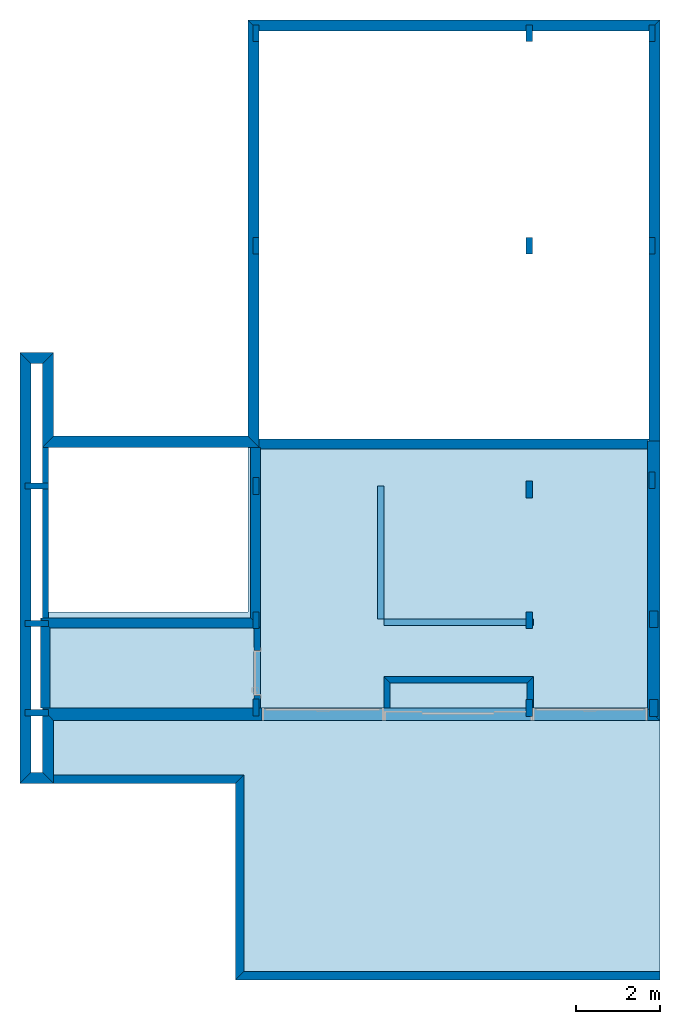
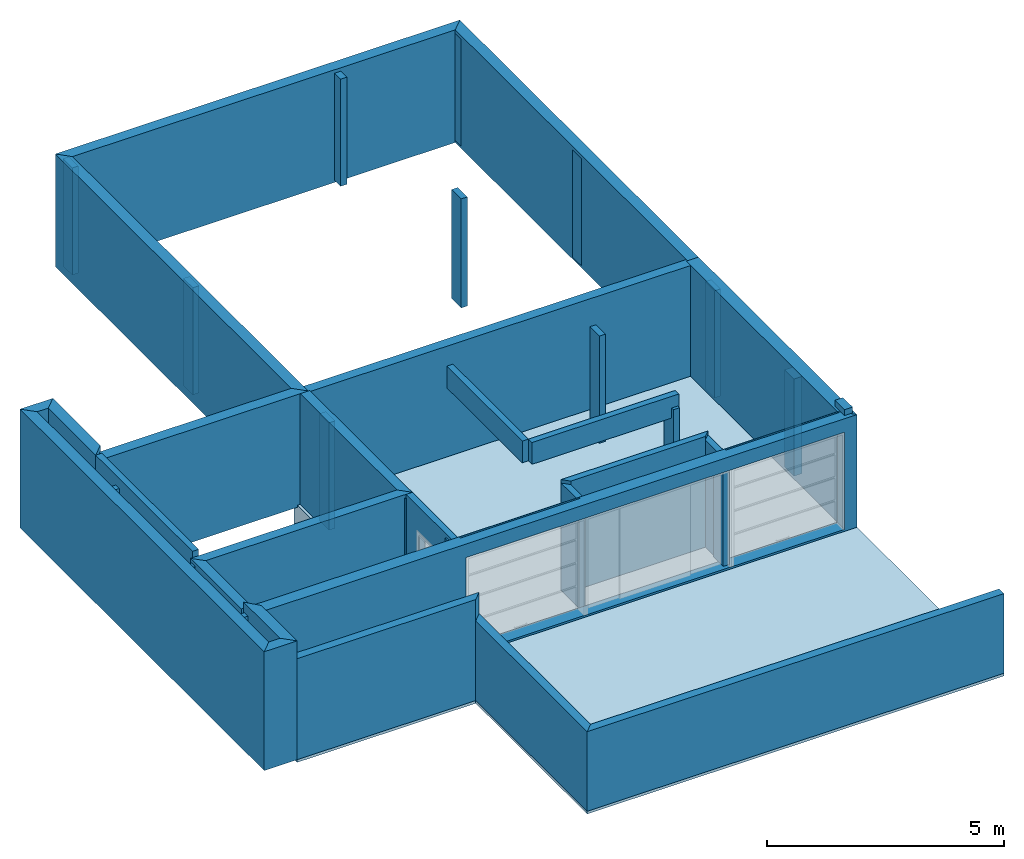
# One storey, part 1 of 2: 25 walls, 18 columns, 2 slabs, 4 openings.
"""IFC2X3 building model written with IfcOpenShell, lengths in millimetres."""

from ifc_helpers import new_model, entity, si_unit, converted_unit, money_unit, direction, frame, origin_with_axes, origin_2d_with_axis, place, context, subcontext, project, spatial, polyline, rectangle, outline, extrude, material, layer, layer_set, layer_usage, type_object, element, save


model = new_model("IFC2X3")

# Units and contexts
model_context = context("Model", 3, precision=1e-05, world=origin_with_axes(), true_north=direction((0.0, 1.0)))
body_context = subcontext(model_context, "Body", "Model", "MODEL_VIEW")
ifc_project = project(units=[si_unit("LENGTHUNIT", "METRE", prefix="MILLI"), si_unit("AREAUNIT", "SQUARE_METRE"), si_unit("VOLUMEUNIT", "CUBIC_METRE"), converted_unit("PLANEANGLEUNIT", "DEGREE", entity("IfcPlaneAngleMeasure", 0.0174532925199), si_unit("PLANEANGLEUNIT", "RADIAN"), dimensions=[0, 0, 0, 0, 0, 0, 0]), si_unit("SOLIDANGLEUNIT", "STERADIAN"), money_unit("USD"), converted_unit("TIMEUNIT", "Year", entity("IfcTimeMeasure", 31556926.0), si_unit("TIMEUNIT", "SECOND"), dimensions=[0, 0, 0, 0, 0, 0, 0]), si_unit("MASSUNIT", "GRAM"), si_unit("THERMODYNAMICTEMPERATUREUNIT", "DEGREE_CELSIUS"), si_unit("LUMINOUSINTENSITYUNIT", "LUMEN")], contexts=[model_context])

# Site, building, storey
site_placement = place(None, origin_with_axes())
site = spatial("IfcSite", under=ifc_project, at=site_placement, Name="Grove Residential", CompositionType="ELEMENT")
building_placement = place(site_placement, origin_with_axes())
building = spatial("IfcBuilding", under=site, at=building_placement, Name="Building", CompositionType="ELEMENT")
storey_placement = place(building_placement, frame((0.0, 0.0, -3060.0), z_axis=(0.0, 0.0, 1.0), x_axis=(1.0, 0.0, 0.0)))
storey = spatial("IfcBuildingStorey", under=building, at=storey_placement, Name="Basement", CompositionType="ELEMENT", Elevation=-3060.0)

# Columns
ifc_material_1 = material(Name="Concrete - Structural")
column_type_1 = type_object("IfcColumnType", Name="Concrete - Structural 150 x 400", PredefinedType="NOTDEFINED")
for number, where, z_axis, x_axis, name in (
    (1, (640.000123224, 3749.99996722, 0.0), (0.0, 0.0, 1.0), (1.0, 0.0, 0.0), "CRE - 001"),
    (2, (639.999984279, 12700.0, 0.0), (0.0, 0.0, 1.0), (1.0, 0.0, 0.0), "CRE - 001"),
    (3, (10109.9999055, 12700.0, 0.0), (0.0, 0.0, 1.0), (1.0, 0.0, 0.0), "CRE - 001"),
    (4, (639.999984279, 17785.0, 0.0), (0.0, 0.0, 1.0), (1.0, 0.0, 0.0), "CRE - 001"),
    (5, (10109.9999055, 17785.0, 0.0), (0.0, 0.0, 1.0), (1.0, 0.0, 0.0), "CRE - 001"),
    (6, (7175.0, 3749.99996722, 0.0), (0.0, 0.0, 1.0), (1.0, 0.0, 0.0), "CRE - 001"),
    (7, (640.000123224, 1664.99992309, 0.0), (0.0, 0.0, 1.0), (1.0, 0.0, 0.0), "CRE - 001"),
    (8, (639.99999327, 6960.0, 0.0), (0.0, 0.0, 1.0), (1.0, 0.0, 0.0), "CRE - 001"),
    (9, (10109.9999055, 7100.0, 0.0), (0.0, 0.0, 1.0), (1.0, 0.0, 0.0), "CRE - 001"),
    (10, (7175.0, 6875.0, 0.0), (0.0, 0.0, 1.0), (1.0, 0.0, 0.0), "CRE - 001"),
):
    element("IfcColumn", number, at=place(storey_placement, frame(where, z_axis=z_axis, x_axis=x_axis)), inside=storey, type_object=column_type_1, material=ifc_material_1, Name=name, ObjectType="Concrete - Structural 150 x 400", context=body_context, shape_type="SweptSolid", body=[
        extrude(rectangle(XDim=150.0, YDim=400.0, at=origin_2d_with_axis()), origin_with_axes(), (0.0, 0.0, 1.0), 2760.0),
    ])
column_1_placement = place(storey_placement, frame((7175.0, 12700.0, -50.0), z_axis=(0.0, 0.0, 1.0), x_axis=(1.0, 0.0, 0.0)))
element("IfcColumn", 11, at=column_1_placement, inside=storey, type_object=column_type_1, material=ifc_material_1, Name="CRE - 001", ObjectType="Concrete - Structural 150 x 400", context=body_context, shape_type="SweptSolid", body=[
    extrude(rectangle(XDim=150.0, YDim=400.0, at=origin_2d_with_axis()), origin_with_axes(), (0.0, 0.0, 1.0), 2810.0),
])
column_2_placement = place(storey_placement, frame((7175.0, 17785.0, 0.0), z_axis=(0.0, 0.0, 1.0), x_axis=(1.0, 0.0, 0.0)))
element("IfcColumn", 12, at=column_2_placement, inside=storey, type_object=column_type_1, material=ifc_material_1, Name="CRE - 001", ObjectType="Concrete - Structural 150 x 400", context=body_context, shape_type="SweptSolid", body=[
    extrude(rectangle(XDim=150.0, YDim=400.0, at=origin_2d_with_axis()), origin_with_axes(), (0.0, 0.0, 1.0), 2760.0),
])
column_3_placement = place(storey_placement, frame((7175.0, 1650.0, 0.0), z_axis=(0.0, 0.0, 1.0), x_axis=(1.0, 0.0, 0.0)))
element("IfcColumn", 13, at=column_3_placement, inside=storey, type_object=column_type_1, material=ifc_material_1, Name="CRE - 001", ObjectType="Concrete - Structural 150 x 400", context=body_context, shape_type="SweptSolid", body=[
    extrude(rectangle(XDim=150.0, YDim=400.0, at=origin_2d_with_axis()), origin_with_axes(), (0.0, 0.0, 1.0), 2500.0),
])
column_type_2 = type_object("IfcColumnType", Name="Concrete - Structural 200 x 400", PredefinedType="NOTDEFINED")
column_4_placement = place(storey_placement, frame((10150.0, 3774.99996722, 0.0), z_axis=(0.0, 0.0, 1.0), x_axis=(1.0, 0.0, 0.0)))
element("IfcColumn", 14, at=column_4_placement, inside=storey, type_object=column_type_2, material=ifc_material_1, Name="CRE - 001", ObjectType="Concrete - Structural 200 x 400", context=body_context, shape_type="SweptSolid", body=[
    extrude(rectangle(XDim=200.0, YDim=400.0, at=origin_2d_with_axis()), origin_with_axes(), (0.0, 0.0, 1.0), 2500.0),
])
column_5_placement = place(storey_placement, frame((10150.0, 1650.0, 0.0), z_axis=(0.0, 0.0, 1.0), x_axis=(1.0, 0.0, 0.0)))
element("IfcColumn", 15, at=column_5_placement, inside=storey, type_object=column_type_2, material=ifc_material_1, Name="CRE - 001", ObjectType="Concrete - Structural 200 x 400", context=body_context, shape_type="SweptSolid", body=[
    extrude(rectangle(XDim=200.0, YDim=400.0, at=origin_2d_with_axis()), origin_with_axes(), (0.0, 0.0, 1.0), 3000.0),
])
column_type_3 = type_object("IfcColumnType", Name="Concrete - Structural 570 x 150", PredefinedType="NOTDEFINED")
for number, where, z_axis, x_axis, name in (
    (16, (-4600.0, 6960.0, 0.0), (0.0, 0.0, 1.0), (1.0, 0.0, 0.0), "CRE - 001"),
    (17, (-4600.0, 1539.99992309, 0.0), (0.0, 0.0, 1.0), (1.0, 0.0, 0.0), "CRE - 001"),
    (18, (-4600.0, 3674.99996722, 0.0), (0.0, 0.0, 1.0), (1.0, 0.0, 0.0), "CRE - 001"),
):
    element("IfcColumn", number, at=place(storey_placement, frame(where, z_axis=z_axis, x_axis=x_axis)), inside=storey, type_object=column_type_3, material=ifc_material_1, Name=name, ObjectType="Concrete - Structural 570 x 150", context=body_context, shape_type="SweptSolid", body=[
        extrude(rectangle(XDim=570.0, YDim=150.0, at=origin_2d_with_axis()), origin_with_axes(), (0.0, 0.0, 1.0), 2760.0),
    ])

# Slabs
ifc_material_2 = material(Name="Grass Paver")
ifc_layer_1 = layer(ifc_material_2, 70.0, ventilated="UNKNOWN")
ifc_layer_set_1 = layer_set([ifc_layer_1], Name="Grass Paver 70")
ifc_layer_usage_1 = layer_usage(ifc_layer_set_1, "AXIS3", "NEGATIVE", 70.0)
slab_type_1 = type_object("IfcSlabType", Name="Grass Paver 70", PredefinedType="FLOOR")
slab_1_placement = place(storey_placement, frame((150.0, -4850.0, -50.0), z_axis=(0.0, 0.0, 1.0), x_axis=(1.0, 0.0, 0.0)))
element("IfcSlab", 19, at=slab_1_placement, inside=storey, type_object=slab_type_1, material=ifc_layer_usage_1, Name="SLA - 001", PredefinedType="FLOOR", context=body_context, shape_type="SweptSolid", body=[
    extrude(outline(polyline([(0.0, 0.0), (10150.0, 0.0), (10150.0, 6200.0), (-4350.0, 6200.0), (-4350.0, 4700.0), (0.0, 4700.0), (0.0, 0.0)])), frame((0.0, 0.0, -70.0), z_axis=(0.0, 0.0, 1.0), x_axis=(1.0, 0.0, 0.0)), (0.0, 0.0, 1.0), 70.0),
])
ifc_material_3 = material(Name="Polished Concrete")
ifc_layer_2 = layer(ifc_material_3, 10.0, ventilated="UNKNOWN")
ifc_material_4 = material(Name="Screed")
ifc_layer_3 = layer(ifc_material_4, 40.0, ventilated="UNKNOWN")
ifc_layer_4 = layer(ifc_material_1, 150.0, ventilated="UNKNOWN")
ifc_material_5 = material(Name="Gravel")
ifc_layer_5 = layer(ifc_material_5, 500.0, ventilated="UNKNOWN")
ifc_layer_set_2 = layer_set([ifc_layer_2, ifc_layer_3, ifc_layer_4, ifc_layer_5], Name="IFS - 001")
ifc_layer_usage_2 = layer_usage(ifc_layer_set_2, "AXIS3", "NEGATIVE", 700.0)
slab_type_2 = type_object("IfcSlabType", Name="IFS - 001 700", PredefinedType="FLOOR")
slab_2_placement = place(storey_placement, frame((10185.0, 1350.0, 0.0), z_axis=(0.0, 0.0, 1.0), x_axis=(1.0, 0.0, 0.0)))
element("IfcSlab", 20, at=slab_2_placement, inside=storey, type_object=slab_type_2, material=ifc_layer_usage_2, Name="SLA - 001", PredefinedType="FLOOR", context=body_context, shape_type="SweptSolid", body=[
    extrude(outline(polyline([(0.0, 0.0), (0.0, 6685.0), (-9735.0, 6685.0), (-9735.0, 2600.0), (-14650.0, 2600.0), (-14650.0, 0.0), (0.0, 0.0)])), frame((0.0, 0.0, -700.0), z_axis=(0.0, 0.0, 1.0), x_axis=(1.0, 0.0, 0.0)), (0.0, 0.0, 1.0), 700.0),
])

# Walls
ifc_material_6 = material(Name="Stonework wall")
ifc_layer_6 = layer(ifc_material_6, 200.0, ventilated="UNKNOWN")
ifc_layer_set_3 = layer_set([ifc_layer_6], Name="Stonework wall 200")
ifc_layer_usage_3 = layer_usage(ifc_layer_set_3, "AXIS2", "POSITIVE", -200.0)
wall_type_1 = type_object("IfcWallType", Name="Stonework wall 200", PredefinedType="NOTDEFINED")
wall_1_placement = place(storey_placement, frame((350.0, 50.0, -50.0), z_axis=(0.0, 0.0, 1.0), x_axis=(0.0, -1.0, 0.0)))
element("IfcWallStandardCase", 21, at=wall_1_placement, inside=storey, type_object=wall_type_1, material=ifc_layer_usage_3, Name="SW - 001", context=body_context, shape_type="SweptSolid", body=[
    extrude(outline(polyline([(200.0, -200.0), (4900.0, -200.0), (4700.0, 0.0), (0.0, 0.0), (200.0, -200.0)])), origin_with_axes(), (0.0, 0.0, 1.0), 2050.0),
])
ifc_layer_usage_4 = layer_usage(ifc_layer_set_3, "AXIS2", "NEGATIVE", 200.0)
wall_2_placement = place(storey_placement, frame((350.0, 50.0, -50.0), z_axis=(0.0, 0.0, 1.0), x_axis=(-1.0, 0.0, 0.0)))
element("IfcWallStandardCase", 22, at=wall_2_placement, inside=storey, type_object=wall_type_1, material=ifc_layer_usage_4, Name="SW - 001", context=body_context, shape_type="SweptSolid", body=[
    extrude(outline(polyline([(0.0, 0.0), (4550.0, 0.0), (4550.0, 200.0), (200.0, 200.0), (0.0, 0.0)])), origin_with_axes(), (0.0, 0.0, 1.0), 2600.0),
])
ifc_layer_usage_5 = layer_usage(ifc_layer_set_3, "AXIS2", "POSITIVE", -200.0)
wall_3_placement = place(storey_placement, frame((350.0, -4650.0, -50.0), z_axis=(0.0, 0.0, 1.0), x_axis=(1.0, 0.0, 0.0)))
element("IfcWallStandardCase", 23, at=wall_3_placement, inside=storey, type_object=wall_type_1, material=ifc_layer_usage_5, Name="SW - 002", context=body_context, shape_type="SweptSolid", body=[
    extrude(outline(polyline([(-200.0, -200.0), (9950.0, -200.0), (9950.0, 0.0), (0.0, 0.0), (-200.0, -200.0)])), origin_with_axes(), (0.0, 0.0, 1.0), 2050.0),
])

# Wall, openings
ifc_layer_7 = layer(ifc_material_6, 50.0, ventilated="UNKNOWN")
ifc_material_7 = material(Name="Air Space")
ifc_layer_8 = layer(ifc_material_7, 15.0, ventilated="UNKNOWN")
ifc_material_8 = material(Name="Insulation - Plastic Soft")
ifc_layer_9 = layer(ifc_material_8, 50.0, ventilated="UNKNOWN")
ifc_material_9 = material(Name="Concrete Block")
ifc_layer_10 = layer(ifc_material_9, 150.0, ventilated="UNKNOWN")
ifc_material_10 = material(Name="Air Space - Fixing Zone")
ifc_layer_11 = layer(ifc_material_10, 10.0, ventilated="UNKNOWN")
ifc_material_11 = material(Name="Gypsum Plasterboard")
ifc_layer_12 = layer(ifc_material_11, 12.5, ventilated="UNKNOWN")
ifc_layer_13 = layer(ifc_material_11, 12.5, ventilated="UNKNOWN")
ifc_layer_set_4 = layer_set([ifc_layer_7, ifc_layer_8, ifc_layer_9, ifc_layer_10, ifc_layer_11, ifc_layer_12, ifc_layer_13], Name="EWF - 009")
ifc_layer_usage_6 = layer_usage(ifc_layer_set_4, "AXIS2", "NEGATIVE", 115.0)
wall_type_2 = type_object("IfcWallType", Name="EWF - 009 300", PredefinedType="NOTDEFINED")
wall_4_placement = place(storey_placement, frame((10185.0, 1465.0, -50.0), z_axis=(0.0, 0.0, 1.0), x_axis=(-1.0, 0.0, 0.0)))
wall_4 = element("IfcWallStandardCase", 24, at=wall_4_placement, inside=storey, type_object=wall_type_2, material=ifc_layer_usage_6, Name="SW - 001", context=body_context, shape_type="SweptSolid", body=[
    extrude(outline(polyline([(185.0, -185.0), (14650.0, -185.0), (14385.0, 115.0), (-115.0, 115.0), (185.0, -185.0)])), origin_with_axes(), (0.0, 0.0, 1.0), 2900.0),
])
opening_1_placement = place(wall_4_placement, frame((1560.0, 0.0, 50.0), z_axis=(0.0, 0.0, 1.0), x_axis=(1.0, 0.0, 0.0)))
element("IfcOpeningElement", 25, at=opening_1_placement, cuts=wall_4, Name="D.07", context=body_context, shape_type="SweptSolid", body=[
    extrude(rectangle(XDim=2750.0, YDim=2500.0, at=origin_2d_with_axis()), frame((0.0, -300.0, 1250.0), z_axis=(0.0, 1.0, 0.0), x_axis=(-1.0, 0.0, 0.0)), (0.0, 0.0, 1.0), 900.0),
    extrude(outline(polyline([(-1375.0, 5000.0), (-1375.0, 2500.0), (1375.0, 2500.0), (1375.0, 5000.0), (-1375.0, 5000.0)])), frame((0.0, -180.0, 0.0), z_axis=(0.0, 1.0, 0.0), x_axis=(-1.0, 0.0, 0.0)), (0.0, 0.0, 1.0), 45.0),
])
opening_2_placement = place(wall_4_placement, frame((7942.5, 0.0, 50.0), z_axis=(0.0, 0.0, 1.0), x_axis=(1.0, 0.0, 0.0)))
element("IfcOpeningElement", 26, at=opening_2_placement, cuts=wall_4, Name="D.08", context=body_context, shape_type="SweptSolid", body=[
    extrude(rectangle(XDim=2915.0, YDim=2500.0, at=origin_2d_with_axis()), frame((0.0, -300.0, 1250.0), z_axis=(0.0, 1.0, 0.0), x_axis=(-1.0, 0.0, 0.0)), (0.0, 0.0, 1.0), 900.0),
    extrude(outline(polyline([(-1457.5, 5000.0), (-1457.5, 2500.0), (1457.5, 2500.0), (1457.5, 5000.0), (-1457.5, 5000.0)])), frame((0.0, -180.0, 0.0), z_axis=(0.0, 1.0, 0.0), x_axis=(-1.0, 0.0, 0.0)), (0.0, 0.0, 1.0), 45.0),
])
opening_3_placement = place(wall_4_placement, frame((4710.0, 0.0, 50.0), z_axis=(0.0, 0.0, 1.0), x_axis=(1.0, 0.0, 0.0)))
element("IfcOpeningElement", 27, at=opening_3_placement, cuts=wall_4, Name="D.10", context=body_context, shape_type="SweptSolid", body=[
    extrude(rectangle(XDim=3550.0, YDim=2500.0, at=origin_2d_with_axis()), frame((0.0, -300.0, 1250.0), z_axis=(0.0, 1.0, 0.0), x_axis=(-1.0, 0.0, 0.0)), (0.0, 0.0, 1.0), 900.0),
])

# Wall
ifc_layer_usage_7 = layer_usage(ifc_layer_set_4, "AXIS2", "NEGATIVE", 115.0)
wall_5_placement = place(storey_placement, frame((10185.0, 8035.0, -50.0), z_axis=(0.0, 0.0, 1.0), x_axis=(0.0, -1.0, 0.0)))
element("IfcWallStandardCase", 28, at=wall_5_placement, inside=storey, type_object=wall_type_2, material=ifc_layer_usage_7, Name="SW - 004", context=body_context, shape_type="SweptSolid", body=[
    extrude(outline(polyline([(0.0, -185.0), (6385.0, -185.0), (6685.0, 115.0), (0.0, 115.0), (0.0, -185.0)])), origin_with_axes(), (0.0, 0.0, 1.0), 2900.0),
])

# Wall, opening
ifc_material_12 = material(Name="Wall Tiles")
ifc_layer_14 = layer(ifc_material_12, 12.5, ventilated="UNKNOWN")
ifc_material_13 = material(Name="Gypsum Plasterboard - Waterproof")
ifc_layer_15 = layer(ifc_material_13, 12.5, ventilated="UNKNOWN")
ifc_material_14 = material(Name="Air Space - Frame")
ifc_layer_16 = layer(ifc_material_14, 100.0, ventilated="UNKNOWN")
ifc_layer_17 = layer(ifc_material_13, 12.5, ventilated="UNKNOWN")
ifc_layer_18 = layer(ifc_material_12, 12.5, ventilated="UNKNOWN")
ifc_layer_set_5 = layer_set([ifc_layer_14, ifc_layer_15, ifc_layer_16, ifc_layer_17, ifc_layer_18], Name="IWF-006")
ifc_layer_usage_8 = layer_usage(ifc_layer_set_5, "AXIS2", "POSITIVE", 0.0)
wall_type_3 = type_object("IfcWallType", Name="IWF-006 150", PredefinedType="NOTDEFINED")
wall_6_placement = place(storey_placement, frame((749.99999327, 1465.0, -50.0), z_axis=(0.0, 0.0, 1.0), x_axis=(0.0, 1.0, 0.0)))
wall_6 = element("IfcWallStandardCase", 29, at=wall_6_placement, inside=storey, type_object=wall_type_3, material=ifc_layer_usage_8, Name="SW - 002", context=body_context, shape_type="SweptSolid", body=[
    extrude(outline(polyline([(185.0, 0.0), (2099.99996722, 0.0), (2099.99996722, 150.0), (185.0, 150.0), (185.0, 0.0)])), origin_with_axes(), (0.0, 0.0, 1.0), 2900.0),
])
opening_4_placement = place(wall_6_placement, frame((1025.0, 0.0, 50.0), z_axis=(0.0, 0.0, 1.0), x_axis=(1.0, 0.0, 0.0)))
element("IfcOpeningElement", 30, at=opening_4_placement, cuts=wall_6, Name="D.02", context=body_context, shape_type="SweptSolid", body=[
    extrude(rectangle(XDim=1080.0, YDim=2140.0, at=origin_2d_with_axis()), frame((0.0, 150.0, 1070.0), z_axis=(0.0, -1.0, 0.0), x_axis=(1.0, 0.0, 0.0)), (0.0, 0.0, 1.0), 450.0),
    extrude(rectangle(XDim=1224.0, YDim=2212.0, at=origin_2d_with_axis()), frame((0.0, 150.0, 1106.0), z_axis=(0.0, -1.0, 0.0), x_axis=(1.0, 0.0, 0.0)), (0.0, 0.0, -1.0), 150.0),
    extrude(rectangle(XDim=1224.0, YDim=2212.0, at=origin_2d_with_axis()), frame((0.0, 0.0, 1106.0), z_axis=(0.0, 1.0, 0.0), x_axis=(1.0, 0.0, 0.0)), (0.0, 0.0, -1.0), 150.0),
])

# Walls
ifc_layer_usage_9 = layer_usage(ifc_layer_set_5, "AXIS2", "NEGATIVE", 150.0)
wall_7_placement = place(storey_placement, frame((3699.99987363, 2400.0, 0.0), z_axis=(0.0, 0.0, 1.0), x_axis=(1.6849677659e-07, -1.0, 0.0)))
element("IfcWallStandardCase", 31, at=wall_7_placement, inside=storey, type_object=wall_type_3, material=ifc_layer_usage_9, Name="SW - 005", context=body_context, shape_type="SweptSolid", body=[
    extrude(outline(polyline([(0.0, 0.0), (749.999995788, 0.0), (749.999995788, 150.0), (150.000025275, 150.0), (0.0, 0.0)])), origin_with_axes(), (0.0, 0.0, 1.0), 2760.0),
])
ifc_layer_usage_10 = layer_usage(ifc_layer_set_5, "AXIS2", "POSITIVE", -150.0)
wall_8_placement = place(storey_placement, frame((3699.99987363, 2400.0, 0.0), z_axis=(0.0, 0.0, 1.0), x_axis=(1.0, 0.0, 0.0)))
element("IfcWallStandardCase", 32, at=wall_8_placement, inside=storey, type_object=wall_type_3, material=ifc_layer_usage_10, Name="SW - 004", context=body_context, shape_type="SweptSolid", body=[
    extrude(outline(polyline([(150.000025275, -150.0), (3425.00013642, -150.0), (3575.00011114, 0.0), (0.0, 0.0), (150.000025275, -150.0)])), origin_with_axes(), (0.0, 0.0, 1.0), 2850.0),
])
ifc_layer_usage_11 = layer_usage(ifc_layer_set_5, "AXIS2", "POSITIVE", -150.0)
wall_9_placement = place(storey_placement, frame((7274.99998477, 2400.0, 0.0), z_axis=(0.0, 0.0, 1.0), x_axis=(1.68496777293e-07, -1.0, 0.0)))
element("IfcWallStandardCase", 33, at=wall_9_placement, inside=storey, type_object=wall_type_3, material=ifc_layer_usage_11, Name="SW - 005", context=body_context, shape_type="SweptSolid", body=[
    extrude(outline(polyline([(149.999974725, -150.0), (749.999966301, -150.0), (749.999966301, 0.0), (0.0, 0.0), (149.999974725, -150.0)])), origin_with_axes(), (0.0, 0.0, 1.0), 2760.0),
])
ifc_layer_19 = layer(ifc_material_6, 50.0, ventilated="UNKNOWN")
ifc_layer_20 = layer(ifc_material_7, 65.0, ventilated="UNKNOWN")
ifc_layer_21 = layer(ifc_material_9, 150.0, ventilated="UNKNOWN")
ifc_layer_set_6 = layer_set([ifc_layer_19, ifc_layer_20, ifc_layer_21], Name="EWF - 010")
ifc_layer_usage_12 = layer_usage(ifc_layer_set_6, "AXIS2", "NEGATIVE", 115.0)
wall_type_4 = type_object("IfcWallType", Name="EWF - 010 265", PredefinedType="NOTDEFINED")
wall_10_placement = place(storey_placement, frame((564.999984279, 17985.0, -50.0), z_axis=(0.0, 0.0, 1.0), x_axis=(1.0, 0.0, 0.0)))
element("IfcWallStandardCase", 34, at=wall_10_placement, inside=storey, type_object=wall_type_4, material=ifc_layer_usage_12, Name="SW - 003", context=body_context, shape_type="SweptSolid", body=[
    extrude(outline(polyline([(150.0, -150.0), (9470.00001572, -150.0), (9735.00001572, 115.0), (-115.0, 115.0), (150.0, -150.0)])), origin_with_axes(), (0.0, 0.0, 1.0), 2900.0),
])
ifc_layer_usage_13 = layer_usage(ifc_layer_set_6, "AXIS2", "NEGATIVE", 115.0)
wall_11_placement = place(storey_placement, frame((10185.0, 17985.0, -50.0), z_axis=(0.0, 0.0, 1.0), x_axis=(0.0, -1.0, 0.0)))
element("IfcWallStandardCase", 35, at=wall_11_placement, inside=storey, type_object=wall_type_4, material=ifc_layer_usage_13, Name="SW - 004", context=body_context, shape_type="SweptSolid", body=[
    extrude(outline(polyline([(150.0, -150.0), (9950.0, -150.0), (9950.0, 115.0), (-115.0, 115.0), (150.0, -150.0)])), origin_with_axes(), (0.0, 0.0, 1.0), 2900.0),
])
ifc_layer_usage_14 = layer_usage(ifc_layer_set_6, "AXIS2", "POSITIVE", -115.0)
wall_12_placement = place(storey_placement, frame((-4315.0, -35.0, 0.0), z_axis=(0.0, 0.0, 1.0), x_axis=(0.0, 1.0, 0.0)))
element("IfcWallStandardCase", 36, at=wall_12_placement, inside=storey, type_object=wall_type_4, material=ifc_layer_usage_14, Name="SW - 001", context=body_context, shape_type="SweptSolid", body=[
    extrude(outline(polyline([(-115.0, -115.0), (1385.0, -115.0), (1685.0, 150.0), (150.0, 150.0), (-115.0, -115.0)])), origin_with_axes(), (0.0, 0.0, 1.0), 3010.0),
])
ifc_layer_usage_15 = layer_usage(ifc_layer_set_6, "AXIS2", "POSITIVE", -115.0)
wall_13_placement = place(storey_placement, frame((-4315.0, 10035.0, -50.0), z_axis=(0.0, 0.0, 1.0), x_axis=(-1.0, 0.0, 0.0)))
element("IfcWallStandardCase", 37, at=wall_13_placement, inside=storey, type_object=wall_type_4, material=ifc_layer_usage_15, Name="SW - 002", context=body_context, shape_type="SweptSolid", body=[
    extrude(outline(polyline([(-115.0, -115.0), (685.0, -115.0), (420.0, 150.0), (150.0, 150.0), (-115.0, -115.0)])), origin_with_axes(), (0.0, 0.0, 1.0), 3060.0),
])
ifc_layer_usage_16 = layer_usage(ifc_layer_set_6, "AXIS2", "POSITIVE", -115.0)
wall_14_placement = place(storey_placement, frame((-4885.0, 10035.0, -50.0), z_axis=(0.0, 0.0, 1.0), x_axis=(0.0, -1.0, 0.0)))
element("IfcWallStandardCase", 38, at=wall_14_placement, inside=storey, type_object=wall_type_4, material=ifc_layer_usage_16, Name="SW - 003", context=body_context, shape_type="SweptSolid", body=[
    extrude(outline(polyline([(-115.0, -115.0), (10185.0, -115.0), (9920.0, 150.0), (150.0, 150.0), (-115.0, -115.0)])), origin_with_axes(), (0.0, 0.0, 1.0), 3060.0),
])
ifc_layer_usage_17 = layer_usage(ifc_layer_set_6, "AXIS2", "POSITIVE", -115.0)
wall_15_placement = place(storey_placement, frame((-4885.0, -35.0, -50.0), z_axis=(0.0, 0.0, 1.0), x_axis=(1.0, 0.0, 0.0)))
element("IfcWallStandardCase", 39, at=wall_15_placement, inside=storey, type_object=wall_type_4, material=ifc_layer_usage_17, Name="SW - 004", context=body_context, shape_type="SweptSolid", body=[
    extrude(outline(polyline([(-115.0, -115.0), (685.0, -115.0), (420.0, 150.0), (150.0, 150.0), (-115.0, -115.0)])), origin_with_axes(), (0.0, 0.0, 1.0), 3060.0),
])
ifc_layer_usage_18 = layer_usage(ifc_layer_set_6, "AXIS2", "NEGATIVE", 115.0)
wall_16_placement = place(storey_placement, frame((-4315.0, 8035.0, -50.0), z_axis=(0.0, 0.0, 1.0), x_axis=(1.0, 0.0, 0.0)))
element("IfcWallStandardCase", 40, at=wall_16_placement, inside=storey, type_object=wall_type_4, material=ifc_layer_usage_18, Name="SW - 005", context=body_context, shape_type="SweptSolid", body=[
    extrude(outline(polyline([(-150.0, -150.0), (5029.99998428, -150.0), (4764.99998428, 115.0), (115.0, 115.0), (-150.0, -150.0)])), origin_with_axes(), (0.0, 0.0, 1.0), 2900.0),
])
ifc_layer_usage_19 = layer_usage(ifc_layer_set_6, "AXIS2", "POSITIVE", -115.0)
wall_17_placement = place(storey_placement, frame((-4315.0, 8035.0, -50.0), z_axis=(0.0, 0.0, 1.0), x_axis=(0.0, 1.0, 0.0)))
element("IfcWallStandardCase", 41, at=wall_17_placement, inside=storey, type_object=wall_type_4, material=ifc_layer_usage_19, Name="SW - 001", context=body_context, shape_type="SweptSolid", body=[
    extrude(outline(polyline([(115.0, -115.0), (2115.0, -115.0), (1850.0, 150.0), (-150.0, 150.0), (115.0, -115.0)])), origin_with_axes(), (0.0, 0.0, 1.0), 3060.0),
])
ifc_layer_usage_20 = layer_usage(ifc_layer_set_6, "AXIS2", "NEGATIVE", 115.0)
wall_18_placement = place(storey_placement, frame((564.999984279, 8035.0, -50.0), z_axis=(0.0, 0.0, 1.0), x_axis=(0.0, 1.0, 0.0)))
element("IfcWallStandardCase", 42, at=wall_18_placement, inside=storey, type_object=wall_type_4, material=ifc_layer_usage_20, Name="SW - 002", context=body_context, shape_type="SweptSolid", body=[
    extrude(outline(polyline([(-150.0, -150.0), (9800.0, -150.0), (10065.0, 115.0), (115.0, 115.0), (-150.0, -150.0)])), origin_with_axes(), (0.0, 0.0, 1.0), 2900.0),
])
ifc_layer_22 = layer(ifc_material_8, 50.0, ventilated="UNKNOWN")
ifc_layer_23 = layer(ifc_material_9, 150.0, ventilated="UNKNOWN")
ifc_layer_24 = layer(ifc_material_10, 10.0, ventilated="UNKNOWN")
ifc_layer_25 = layer(ifc_material_11, 12.5, ventilated="UNKNOWN")
ifc_layer_26 = layer(ifc_material_11, 12.5, ventilated="UNKNOWN")
ifc_layer_set_7 = layer_set([ifc_layer_22, ifc_layer_23, ifc_layer_24, ifc_layer_25, ifc_layer_26], Name="EWF - 011")
ifc_layer_usage_21 = layer_usage(ifc_layer_set_7, "AXIS2", "NEGATIVE", 50.0)
wall_type_5 = type_object("IfcWallType", Name="EWF - 011 235", PredefinedType="NOTDEFINED")
wall_19_placement = place(storey_placement, frame((564.99999327, 8035.0, -50.0), z_axis=(0.0, 0.0, 1.0), x_axis=(1.0, 0.0, 0.0)))
element("IfcWallStandardCase", 43, at=wall_19_placement, inside=storey, type_object=wall_type_5, material=ifc_layer_usage_21, Name="SW - 005", context=body_context, shape_type="SweptSolid", body=[
    extrude(outline(polyline([(149.999991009, -185.0), (9435.00000673, -185.0), (9470.00000673, 50.0), (149.999991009, 50.0), (149.999991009, -185.0)])), origin_with_axes(), (0.0, 0.0, 1.0), 2900.0),
])
ifc_layer_usage_22 = layer_usage(ifc_layer_set_7, "AXIS2", "NEGATIVE", 50.0)
wall_20_placement = place(storey_placement, frame((-4315.0, 3749.99996722, -50.0), z_axis=(0.0, 0.0, 1.0), x_axis=(1.0, 0.0, 0.0)))
element("IfcWallStandardCase", 44, at=wall_20_placement, inside=storey, type_object=wall_type_5, material=ifc_layer_usage_22, Name="SW - 005", context=body_context, shape_type="SweptSolid", body=[
    extrude(outline(polyline([(35.0, -185.0), (5064.99999327, -185.0), (4829.99999327, 50.0), (-200.0, 50.0), (35.0, -185.0)])), origin_with_axes(), (0.0, 0.0, 1.0), 2900.0),
])
ifc_layer_usage_23 = layer_usage(ifc_layer_set_7, "AXIS2", "NEGATIVE", 200.0)
wall_21_placement = place(storey_placement, frame((-4315.0, 1465.0, -50.0), z_axis=(0.0, 0.0, 1.0), x_axis=(0.0, 1.0, 0.0)))
element("IfcWallStandardCase", 45, at=wall_21_placement, inside=storey, type_object=wall_type_5, material=ifc_layer_usage_23, Name="SW - 001", context=body_context, shape_type="SweptSolid", body=[
    extrude(outline(polyline([(185.0, -35.0), (2099.99996722, -35.0), (2334.99996722, 200.0), (185.0, 200.0), (185.0, -35.0)])), origin_with_axes(), (0.0, 0.0, 1.0), 2900.0),
])
ifc_layer_usage_24 = layer_usage(ifc_layer_set_7, "AXIS2", "NEGATIVE", 50.0)
wall_22_placement = place(storey_placement, frame((564.99999327, 3749.99996722, -50.0), z_axis=(0.0, 0.0, 1.0), x_axis=(0.0, 1.0, 0.0)))
element("IfcWallStandardCase", 46, at=wall_22_placement, inside=storey, type_object=wall_type_5, material=ifc_layer_usage_24, Name="SW - 002", context=body_context, shape_type="SweptSolid", body=[
    extrude(outline(polyline([(-185.0, -185.0), (4135.00003278, -185.0), (4135.00003278, 50.0), (50.0, 50.0), (-185.0, -185.0)])), origin_with_axes(), (0.0, 0.0, 1.0), 2900.0),
])
ifc_layer_27 = layer(ifc_material_9, 150.0, ventilated="UNKNOWN")
ifc_layer_set_8 = layer_set([ifc_layer_27], Name="Concrete Block 150")
ifc_layer_usage_25 = layer_usage(ifc_layer_set_8, "AXIS2", "POSITIVE", 0.0)
wall_type_6 = type_object("IfcWallType", Name="Concrete Block 150", PredefinedType="NOTDEFINED")
wall_23_placement = place(storey_placement, frame((-4315.0, 3749.99996722, -50.0), z_axis=(0.0, 0.0, 1.0), x_axis=(0.0, 1.0, 0.0)))
element("IfcWallStandardCase", 47, at=wall_23_placement, inside=storey, type_object=wall_type_6, material=ifc_layer_usage_25, Name="SW - 001", context=body_context, shape_type="SweptSolid", body=[
    extrude(outline(polyline([(50.0, 0.0), (4135.00003278, 0.0), (4135.00003278, 150.0), (50.0, 150.0), (50.0, 0.0)])), origin_with_axes(), (0.0, 0.0, 1.0), 3060.0),
])
ifc_layer_28 = layer(ifc_material_11, 12.5, ventilated="UNKNOWN")
ifc_layer_29 = layer(ifc_material_11, 12.5, ventilated="UNKNOWN")
ifc_layer_30 = layer(ifc_material_14, 100.0, ventilated="UNKNOWN")
ifc_layer_31 = layer(ifc_material_11, 12.5, ventilated="UNKNOWN")
ifc_layer_32 = layer(ifc_material_11, 12.5, ventilated="UNKNOWN")
ifc_layer_set_9 = layer_set([ifc_layer_28, ifc_layer_29, ifc_layer_30, ifc_layer_31, ifc_layer_32], Name="IWF-007")
ifc_layer_usage_26 = layer_usage(ifc_layer_set_9, "AXIS2", "POSITIVE", -150.0)
wall_type_7 = type_object("IfcWallType", Name="IWF-007 150", PredefinedType="NOTDEFINED")
wall_24_placement = place(storey_placement, frame((3699.99987363, 3774.99996722, 2500.0), z_axis=(0.0, 0.0, 1.0), x_axis=(1.0, 0.0, 0.0)))
element("IfcWallStandardCase", 48, at=wall_24_placement, inside=storey, type_object=wall_type_7, material=ifc_layer_usage_26, Name="SW - 004", context=body_context, shape_type="SweptSolid", body=[
    extrude(outline(polyline([(0.0, -150.0), (3575.00011114, -150.0), (3575.00011114, 0.0), (0.0, 0.0), (0.0, -150.0)])), origin_with_axes(), (0.0, 0.0, 1.0), 560.0),
])
ifc_layer_usage_27 = layer_usage(ifc_layer_set_9, "AXIS2", "NEGATIVE", 150.0)
wall_25_placement = place(storey_placement, frame((3699.99987363, 3774.99996722, 2500.0), z_axis=(0.0, 0.0, 1.0), x_axis=(0.0, 1.0, 0.0)))
element("IfcWallStandardCase", 49, at=wall_25_placement, inside=storey, type_object=wall_type_7, material=ifc_layer_usage_27, Name="SW - 004", context=body_context, shape_type="SweptSolid", body=[
    extrude(outline(polyline([(0.0, 0.0), (3180.00003278, 0.0), (3180.00003278, 150.0), (0.0, 150.0), (0.0, 0.0)])), origin_with_axes(), (0.0, 0.0, 1.0), 560.0),
])

save(model, "model.ifc")
